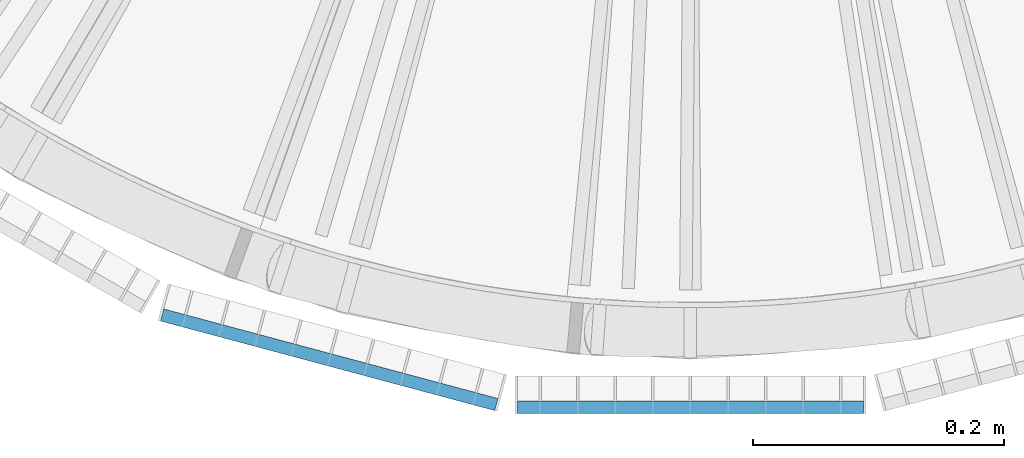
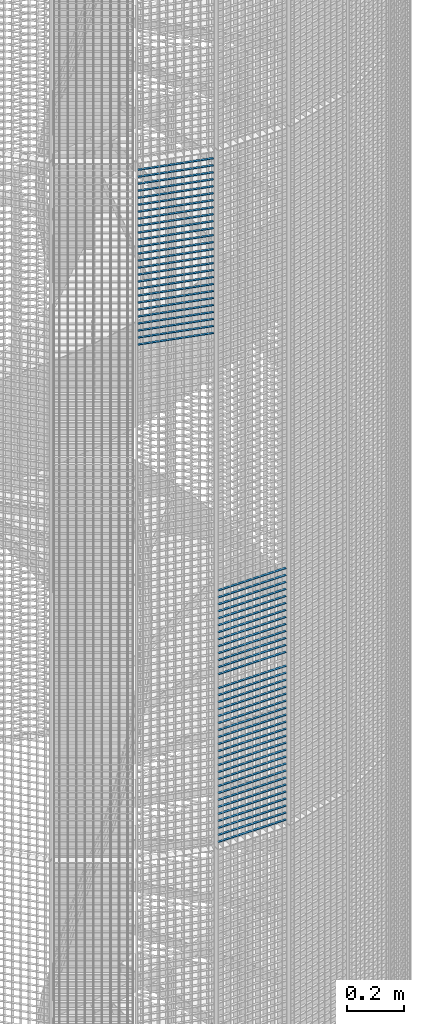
# One storey, part 164 of 1183: 62 beams, 2 elements without a shape of their own.
"""IFC2X3 building model written with IfcOpenShell, lengths in millimetres."""

from ifc_helpers import new_model, si_unit, frame, origin_with_axes, origin_2d_with_axis, place, context, subcontext, project, spatial, rectangle, extrude, material, type_object, element, aggregate, save


model = new_model("IFC2X3")

# Units and contexts
model_context = context("Model", 3, precision=1e-05, world=origin_with_axes())
body_context = subcontext(model_context, "Body", "Model", "MODEL_VIEW")
ifc_project = project(units=[si_unit("LENGTHUNIT", "METRE", prefix="MILLI"), si_unit("AREAUNIT", "SQUARE_METRE"), si_unit("VOLUMEUNIT", "CUBIC_METRE"), si_unit("MASSUNIT", "GRAM", prefix="KILO"), si_unit("TIMEUNIT", "SECOND"), si_unit("PLANEANGLEUNIT", "RADIAN"), si_unit("SOLIDANGLEUNIT", "STERADIAN"), si_unit("THERMODYNAMICTEMPERATUREUNIT", "DEGREE_CELSIUS"), si_unit("LUMINOUSINTENSITYUNIT", "LUMEN")], contexts=[model_context])

# Site, building, storey
site_placement = place(None, origin_with_axes())
site = spatial("IfcSite", under=ifc_project, at=site_placement, Name="Undefined", CompositionType="ELEMENT")
building_placement = place(site_placement, origin_with_axes())
building = spatial("IfcBuilding", under=site, at=building_placement, Name="Undefined", CompositionType="ELEMENT")
storey_placement = place(building_placement, origin_with_axes())
storey = spatial("IfcBuildingStorey", under=building, at=storey_placement, Name="Undefined", CompositionType="ELEMENT", Elevation=0.0)

# Assembly, beams
assembly_1_placement = place(storey_placement, origin_with_axes())
assembly_1 = element("IfcElementAssembly", 1, at=assembly_1_placement, inside=storey, Name="BORDURE", AssemblyPlace="NOTDEFINED", PredefinedType="NOTDEFINED")
ifc_material = material(Name="STEEL/S235JR")
beam_type = type_object("IfcBeamType", Name="PL2*10", PredefinedType="NOTDEFINED")
beam_1_placement = place(assembly_1_placement, frame((-137.996003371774, -1113.47999999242, 3690.0), z_axis=(0.0, -1.0, 0.0), x_axis=(1.0, 0.0, 0.0)))
beam_1 = element("IfcBeam", 2, at=beam_1_placement, type_object=beam_type, material=ifc_material, Name="ENTRETOISE", context=body_context, shape_type="SweptSolid", body=[
    extrude(rectangle(XDim=2.0, YDim=10.0, at=origin_2d_with_axis()), frame((275.999999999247, 9.09494701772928e-13, 1.53210777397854e-14), z_axis=(-1.0, 0.0, 0.0), x_axis=(0.0, -1.0, 0.0)), (0.0, 0.0, 1.0), 276.0),
])
beam_2_placement = place(assembly_1_placement, frame((-137.996003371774, -1113.47999999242, 3750.0), z_axis=(0.0, -1.0, 0.0), x_axis=(1.0, 0.0, 0.0)))
beam_2 = element("IfcBeam", 3, at=beam_2_placement, type_object=beam_type, material=ifc_material, Name="ENTRETOISE", context=body_context, shape_type="SweptSolid", body=[
    extrude(rectangle(XDim=2.0, YDim=10.0, at=origin_2d_with_axis()), frame((275.999999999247, 9.09494701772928e-13, 1.53210777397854e-14), z_axis=(-1.0, 0.0, 0.0), x_axis=(0.0, -1.0, 0.0)), (0.0, 0.0, 1.0), 276.0),
])
beam_3_placement = place(assembly_1_placement, frame((-137.996003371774, -1113.47999999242, 3660.0), z_axis=(0.0, -1.0, 0.0), x_axis=(1.0, 0.0, 0.0)))
beam_3 = element("IfcBeam", 4, at=beam_3_placement, type_object=beam_type, material=ifc_material, Name="ENTRETOISE", context=body_context, shape_type="SweptSolid", body=[
    extrude(rectangle(XDim=2.0, YDim=10.0, at=origin_2d_with_axis()), frame((275.999999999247, 9.09494701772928e-13, 1.53210777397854e-14), z_axis=(-1.0, 0.0, 0.0), x_axis=(0.0, -1.0, 0.0)), (0.0, 0.0, 1.0), 276.0),
])
beam_4_placement = place(assembly_1_placement, frame((-137.996003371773, -1113.47999999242, 3630.0), z_axis=(0.0, -1.0, 0.0), x_axis=(1.0, 0.0, 0.0)))
beam_4 = element("IfcBeam", 5, at=beam_4_placement, type_object=beam_type, material=ifc_material, Name="ENTRETOISE", context=body_context, shape_type="SweptSolid", body=[
    extrude(rectangle(XDim=2.0, YDim=10.0, at=origin_2d_with_axis()), frame((275.999999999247, 9.09494701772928e-13, 1.53210777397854e-14), z_axis=(-1.0, 0.0, 0.0), x_axis=(0.0, -1.0, 0.0)), (0.0, 0.0, 1.0), 276.0),
])
beam_5_placement = place(assembly_1_placement, frame((-137.996003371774, -1113.47999999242, 3780.0), z_axis=(0.0, -1.0, 0.0), x_axis=(1.0, 0.0, 0.0)))
beam_5 = element("IfcBeam", 6, at=beam_5_placement, type_object=beam_type, material=ifc_material, Name="ENTRETOISE", context=body_context, shape_type="SweptSolid", body=[
    extrude(rectangle(XDim=2.0, YDim=10.0, at=origin_2d_with_axis()), frame((275.999999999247, 9.09494701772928e-13, 1.53210777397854e-14), z_axis=(-1.0, 0.0, 0.0), x_axis=(0.0, -1.0, 0.0)), (0.0, 0.0, 1.0), 276.0),
])
beam_6_placement = place(assembly_1_placement, frame((-137.996003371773, -1113.47999999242, 3600.0), z_axis=(0.0, -1.0, 0.0), x_axis=(1.0, 0.0, 0.0)))
beam_6 = element("IfcBeam", 7, at=beam_6_placement, type_object=beam_type, material=ifc_material, Name="ENTRETOISE", context=body_context, shape_type="SweptSolid", body=[
    extrude(rectangle(XDim=2.0, YDim=10.0, at=origin_2d_with_axis()), frame((275.999999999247, 9.09494701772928e-13, 1.53210777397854e-14), z_axis=(-1.0, 0.0, 0.0), x_axis=(0.0, -1.0, 0.0)), (0.0, 0.0, 1.0), 276.0),
])
beam_7_placement = place(assembly_1_placement, frame((-137.996003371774, -1113.47999999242, 3810.0), z_axis=(0.0, -1.0, 0.0), x_axis=(1.0, 0.0, 0.0)))
beam_7 = element("IfcBeam", 8, at=beam_7_placement, type_object=beam_type, material=ifc_material, Name="ENTRETOISE", context=body_context, shape_type="SweptSolid", body=[
    extrude(rectangle(XDim=2.0, YDim=10.0, at=origin_2d_with_axis()), frame((275.999999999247, 9.09494701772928e-13, 1.53210777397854e-14), z_axis=(-1.0, 0.0, 0.0), x_axis=(0.0, -1.0, 0.0)), (0.0, 0.0, 1.0), 276.0),
])
beam_8_placement = place(assembly_1_placement, frame((-137.996003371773, -1113.47999999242, 3570.0), z_axis=(0.0, -1.0, 0.0), x_axis=(1.0, 0.0, 0.0)))
beam_8 = element("IfcBeam", 9, at=beam_8_placement, type_object=beam_type, material=ifc_material, Name="ENTRETOISE", context=body_context, shape_type="SweptSolid", body=[
    extrude(rectangle(XDim=2.0, YDim=10.0, at=origin_2d_with_axis()), frame((275.999999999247, 9.09494701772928e-13, 1.53210777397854e-14), z_axis=(-1.0, 0.0, 0.0), x_axis=(0.0, -1.0, 0.0)), (0.0, 0.0, 1.0), 276.0),
])
beam_9_placement = place(assembly_1_placement, frame((-137.996003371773, -1113.47999999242, 3540.0), z_axis=(0.0, -1.0, 0.0), x_axis=(1.0, 0.0, 0.0)))
beam_9 = element("IfcBeam", 10, at=beam_9_placement, type_object=beam_type, material=ifc_material, Name="ENTRETOISE", context=body_context, shape_type="SweptSolid", body=[
    extrude(rectangle(XDim=2.0, YDim=10.0, at=origin_2d_with_axis()), frame((275.999999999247, 9.09494701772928e-13, 1.53210777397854e-14), z_axis=(-1.0, 0.0, 0.0), x_axis=(0.0, -1.0, 0.0)), (0.0, 0.0, 1.0), 276.0),
])
beam_10_placement = place(assembly_1_placement, frame((-137.996003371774, -1113.47999999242, 3840.0), z_axis=(0.0, -1.0, 0.0), x_axis=(1.0, 0.0, 0.0)))
beam_10 = element("IfcBeam", 11, at=beam_10_placement, type_object=beam_type, material=ifc_material, Name="ENTRETOISE", context=body_context, shape_type="SweptSolid", body=[
    extrude(rectangle(XDim=2.0, YDim=10.0, at=origin_2d_with_axis()), frame((275.999999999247, 9.09494701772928e-13, 1.53210777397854e-14), z_axis=(-1.0, 0.0, 0.0), x_axis=(0.0, -1.0, 0.0)), (0.0, 0.0, 1.0), 276.0),
])
beam_11_placement = place(assembly_1_placement, frame((-137.996003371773, -1113.47999999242, 3510.0), z_axis=(0.0, -1.0, 0.0), x_axis=(1.0, 0.0, 0.0)))
beam_11 = element("IfcBeam", 12, at=beam_11_placement, type_object=beam_type, material=ifc_material, Name="ENTRETOISE", context=body_context, shape_type="SweptSolid", body=[
    extrude(rectangle(XDim=2.0, YDim=10.0, at=origin_2d_with_axis()), frame((275.999999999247, 9.09494701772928e-13, 1.53210777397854e-14), z_axis=(-1.0, 0.0, 0.0), x_axis=(0.0, -1.0, 0.0)), (0.0, 0.0, 1.0), 276.0),
])
beam_12_placement = place(assembly_1_placement, frame((-137.996003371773, -1113.47999999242, 3480.0), z_axis=(0.0, -1.0, 0.0), x_axis=(1.0, 0.0, 0.0)))
beam_12 = element("IfcBeam", 13, at=beam_12_placement, type_object=beam_type, material=ifc_material, Name="ENTRETOISE", context=body_context, shape_type="SweptSolid", body=[
    extrude(rectangle(XDim=2.0, YDim=10.0, at=origin_2d_with_axis()), frame((275.999999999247, 9.09494701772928e-13, 1.53210777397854e-14), z_axis=(-1.0, 0.0, 0.0), x_axis=(0.0, -1.0, 0.0)), (0.0, 0.0, 1.0), 276.0),
])
beam_13_placement = place(assembly_1_placement, frame((-137.996003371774, -1113.47999999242, 3870.0), z_axis=(0.0, -1.0, 0.0), x_axis=(1.0, 0.0, 0.0)))
beam_13 = element("IfcBeam", 14, at=beam_13_placement, type_object=beam_type, material=ifc_material, Name="ENTRETOISE", context=body_context, shape_type="SweptSolid", body=[
    extrude(rectangle(XDim=2.0, YDim=10.0, at=origin_2d_with_axis()), frame((275.999999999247, 9.09494701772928e-13, 1.53210777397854e-14), z_axis=(-1.0, 0.0, 0.0), x_axis=(0.0, -1.0, 0.0)), (0.0, 0.0, 1.0), 276.0),
])
beam_14_placement = place(assembly_1_placement, frame((-137.996003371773, -1113.47999999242, 3450.0), z_axis=(0.0, -1.0, 0.0), x_axis=(1.0, 0.0, 0.0)))
beam_14 = element("IfcBeam", 15, at=beam_14_placement, type_object=beam_type, material=ifc_material, Name="ENTRETOISE", context=body_context, shape_type="SweptSolid", body=[
    extrude(rectangle(XDim=2.0, YDim=10.0, at=origin_2d_with_axis()), frame((275.999999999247, 9.09494701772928e-13, 1.53210777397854e-14), z_axis=(-1.0, 0.0, 0.0), x_axis=(0.0, -1.0, 0.0)), (0.0, 0.0, 1.0), 276.0),
])
beam_15_placement = place(assembly_1_placement, frame((-137.996003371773, -1113.47999999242, 3420.0), z_axis=(0.0, -1.0, 0.0), x_axis=(1.0, 0.0, 0.0)))
beam_15 = element("IfcBeam", 16, at=beam_15_placement, type_object=beam_type, material=ifc_material, Name="ENTRETOISE", context=body_context, shape_type="SweptSolid", body=[
    extrude(rectangle(XDim=2.0, YDim=10.0, at=origin_2d_with_axis()), frame((275.999999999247, 9.09494701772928e-13, 1.53210777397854e-14), z_axis=(-1.0, 0.0, 0.0), x_axis=(0.0, -1.0, 0.0)), (0.0, 0.0, 1.0), 276.0),
])
beam_16_placement = place(assembly_1_placement, frame((-137.996003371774, -1113.47999999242, 3900.0), z_axis=(0.0, -1.0, 0.0), x_axis=(1.0, 0.0, 0.0)))
beam_16 = element("IfcBeam", 17, at=beam_16_placement, type_object=beam_type, material=ifc_material, Name="ENTRETOISE", context=body_context, shape_type="SweptSolid", body=[
    extrude(rectangle(XDim=2.0, YDim=10.0, at=origin_2d_with_axis()), frame((275.999999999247, 9.09494701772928e-13, 1.53210777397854e-14), z_axis=(-1.0, 0.0, 0.0), x_axis=(0.0, -1.0, 0.0)), (0.0, 0.0, 1.0), 276.0),
])
beam_17_placement = place(assembly_1_placement, frame((-137.996003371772, -1113.47999999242, 3390.0), z_axis=(0.0, -1.0, 0.0), x_axis=(1.0, 0.0, 0.0)))
beam_17 = element("IfcBeam", 18, at=beam_17_placement, type_object=beam_type, material=ifc_material, Name="ENTRETOISE", context=body_context, shape_type="SweptSolid", body=[
    extrude(rectangle(XDim=2.0, YDim=10.0, at=origin_2d_with_axis()), frame((275.999999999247, 9.09494701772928e-13, 1.53210777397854e-14), z_axis=(-1.0, 0.0, 0.0), x_axis=(0.0, -1.0, 0.0)), (0.0, 0.0, 1.0), 276.0),
])
beam_18_placement = place(assembly_1_placement, frame((-137.996003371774, -1113.47999999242, 3930.0), z_axis=(0.0, -1.0, 0.0), x_axis=(1.0, 0.0, 0.0)))
beam_18 = element("IfcBeam", 19, at=beam_18_placement, type_object=beam_type, material=ifc_material, Name="ENTRETOISE", context=body_context, shape_type="SweptSolid", body=[
    extrude(rectangle(XDim=2.0, YDim=10.0, at=origin_2d_with_axis()), frame((275.999999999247, 9.09494701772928e-13, 1.53210777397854e-14), z_axis=(-1.0, 0.0, 0.0), x_axis=(0.0, -1.0, 0.0)), (0.0, 0.0, 1.0), 276.0),
])
beam_19_placement = place(assembly_1_placement, frame((-137.996003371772, -1113.47999999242, 3360.0), z_axis=(0.0, -1.0, 0.0), x_axis=(1.0, 0.0, 0.0)))
beam_19 = element("IfcBeam", 20, at=beam_19_placement, type_object=beam_type, material=ifc_material, Name="ENTRETOISE", context=body_context, shape_type="SweptSolid", body=[
    extrude(rectangle(XDim=2.0, YDim=10.0, at=origin_2d_with_axis()), frame((275.999999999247, 9.09494701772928e-13, 1.53210777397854e-14), z_axis=(-1.0, 0.0, 0.0), x_axis=(0.0, -1.0, 0.0)), (0.0, 0.0, 1.0), 276.0),
])
beam_20_placement = place(assembly_1_placement, frame((-137.996003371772, -1113.47999999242, 3330.0), z_axis=(0.0, -1.0, 0.0), x_axis=(1.0, 0.0, 0.0)))
beam_20 = element("IfcBeam", 21, at=beam_20_placement, type_object=beam_type, material=ifc_material, Name="ENTRETOISE", context=body_context, shape_type="SweptSolid", body=[
    extrude(rectangle(XDim=2.0, YDim=10.0, at=origin_2d_with_axis()), frame((275.999999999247, 9.09494701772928e-13, 1.53210777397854e-14), z_axis=(-1.0, 0.0, 0.0), x_axis=(0.0, -1.0, 0.0)), (0.0, 0.0, 1.0), 276.0),
])
beam_21_placement = place(assembly_1_placement, frame((-137.996003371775, -1113.47999999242, 3960.0), z_axis=(0.0, -1.0, 0.0), x_axis=(1.0, 0.0, 0.0)))
beam_21 = element("IfcBeam", 22, at=beam_21_placement, type_object=beam_type, material=ifc_material, Name="ENTRETOISE", context=body_context, shape_type="SweptSolid", body=[
    extrude(rectangle(XDim=2.0, YDim=10.0, at=origin_2d_with_axis()), frame((275.999999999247, 9.09494701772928e-13, 1.53210777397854e-14), z_axis=(-1.0, 0.0, 0.0), x_axis=(0.0, -1.0, 0.0)), (0.0, 0.0, 1.0), 276.0),
])
beam_22_placement = place(assembly_1_placement, frame((-137.996003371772, -1113.47999999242, 3300.0), z_axis=(0.0, -1.0, 0.0), x_axis=(1.0, 0.0, 0.0)))
beam_22 = element("IfcBeam", 23, at=beam_22_placement, type_object=beam_type, material=ifc_material, Name="ENTRETOISE", context=body_context, shape_type="SweptSolid", body=[
    extrude(rectangle(XDim=2.0, YDim=10.0, at=origin_2d_with_axis()), frame((275.999999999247, 9.09494701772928e-13, 1.53210777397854e-14), z_axis=(-1.0, 0.0, 0.0), x_axis=(0.0, -1.0, 0.0)), (0.0, 0.0, 1.0), 276.0),
])
beam_23_placement = place(assembly_1_placement, frame((-137.996003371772, -1113.47999999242, 3270.0), z_axis=(0.0, -1.0, 0.0), x_axis=(1.0, 0.0, 0.0)))
beam_23 = element("IfcBeam", 24, at=beam_23_placement, type_object=beam_type, material=ifc_material, Name="ENTRETOISE", context=body_context, shape_type="SweptSolid", body=[
    extrude(rectangle(XDim=2.0, YDim=10.0, at=origin_2d_with_axis()), frame((275.999999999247, 9.09494701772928e-13, 1.53210777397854e-14), z_axis=(-1.0, 0.0, 0.0), x_axis=(0.0, -1.0, 0.0)), (0.0, 0.0, 1.0), 276.0),
])
beam_24_placement = place(assembly_1_placement, frame((-137.996003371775, -1113.47999999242, 3990.0), z_axis=(0.0, -1.0, 0.0), x_axis=(1.0, 0.0, 0.0)))
beam_24 = element("IfcBeam", 25, at=beam_24_placement, type_object=beam_type, material=ifc_material, Name="ENTRETOISE", context=body_context, shape_type="SweptSolid", body=[
    extrude(rectangle(XDim=2.0, YDim=10.0, at=origin_2d_with_axis()), frame((275.999999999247, 9.09494701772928e-13, 1.53210777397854e-14), z_axis=(-1.0, 0.0, 0.0), x_axis=(0.0, -1.0, 0.0)), (0.0, 0.0, 1.0), 276.0),
])
beam_25_placement = place(assembly_1_placement, frame((-137.996003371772, -1113.47999999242, 3240.0), z_axis=(0.0, -1.0, 0.0), x_axis=(1.0, 0.0, 0.0)))
beam_25 = element("IfcBeam", 26, at=beam_25_placement, type_object=beam_type, material=ifc_material, Name="ENTRETOISE", context=body_context, shape_type="SweptSolid", body=[
    extrude(rectangle(XDim=2.0, YDim=10.0, at=origin_2d_with_axis()), frame((275.999999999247, 9.09494701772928e-13, 1.53210777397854e-14), z_axis=(-1.0, 0.0, 0.0), x_axis=(0.0, -1.0, 0.0)), (0.0, 0.0, 1.0), 276.0),
])
beam_26_placement = place(assembly_1_placement, frame((-137.996003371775, -1113.47999999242, 4020.0), z_axis=(0.0, -1.0, 0.0), x_axis=(1.0, 0.0, 0.0)))
beam_26 = element("IfcBeam", 27, at=beam_26_placement, type_object=beam_type, material=ifc_material, Name="ENTRETOISE", context=body_context, shape_type="SweptSolid", body=[
    extrude(rectangle(XDim=2.0, YDim=10.0, at=origin_2d_with_axis()), frame((275.999999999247, 9.09494701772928e-13, 1.53210777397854e-14), z_axis=(-1.0, 0.0, 0.0), x_axis=(0.0, -1.0, 0.0)), (0.0, 0.0, 1.0), 276.0),
])
beam_27_placement = place(assembly_1_placement, frame((-137.996003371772, -1113.47999999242, 3210.0), z_axis=(0.0, -1.0, 0.0), x_axis=(1.0, 0.0, 0.0)))
beam_27 = element("IfcBeam", 28, at=beam_27_placement, type_object=beam_type, material=ifc_material, Name="ENTRETOISE", context=body_context, shape_type="SweptSolid", body=[
    extrude(rectangle(XDim=2.0, YDim=10.0, at=origin_2d_with_axis()), frame((275.999999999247, 9.09494701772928e-13, 1.53210777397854e-14), z_axis=(-1.0, 0.0, 0.0), x_axis=(0.0, -1.0, 0.0)), (0.0, 0.0, 1.0), 276.0),
])
beam_28_placement = place(assembly_1_placement, frame((-137.996003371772, -1113.47999999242, 3180.0), z_axis=(0.0, -1.0, 0.0), x_axis=(1.0, 0.0, 0.0)))
beam_28 = element("IfcBeam", 29, at=beam_28_placement, type_object=beam_type, material=ifc_material, Name="ENTRETOISE", context=body_context, shape_type="SweptSolid", body=[
    extrude(rectangle(XDim=2.0, YDim=10.0, at=origin_2d_with_axis()), frame((275.999999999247, 9.09494701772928e-13, 1.53210777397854e-14), z_axis=(-1.0, 0.0, 0.0), x_axis=(0.0, -1.0, 0.0)), (0.0, 0.0, 1.0), 276.0),
])
beam_29_placement = place(assembly_1_placement, frame((-137.996003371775, -1113.47999999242, 4050.0), z_axis=(0.0, -1.0, 0.0), x_axis=(1.0, 0.0, 0.0)))
beam_29 = element("IfcBeam", 30, at=beam_29_placement, type_object=beam_type, material=ifc_material, Name="ENTRETOISE", context=body_context, shape_type="SweptSolid", body=[
    extrude(rectangle(XDim=2.0, YDim=10.0, at=origin_2d_with_axis()), frame((275.999999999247, 9.09494701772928e-13, 1.53210777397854e-14), z_axis=(-1.0, 0.0, 0.0), x_axis=(0.0, -1.0, 0.0)), (0.0, 0.0, 1.0), 276.0),
])
beam_30_placement = place(assembly_1_placement, frame((-137.996003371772, -1113.47999999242, 3150.0), z_axis=(0.0, -1.0, 0.0), x_axis=(1.0, 0.0, 0.0)))
beam_30 = element("IfcBeam", 31, at=beam_30_placement, type_object=beam_type, material=ifc_material, Name="ENTRETOISE", context=body_context, shape_type="SweptSolid", body=[
    extrude(rectangle(XDim=2.0, YDim=10.0, at=origin_2d_with_axis()), frame((275.999999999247, 9.09494701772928e-13, 1.53210777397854e-14), z_axis=(-1.0, 0.0, 0.0), x_axis=(0.0, -1.0, 0.0)), (0.0, 0.0, 1.0), 276.0),
])
beam_31_placement = place(assembly_1_placement, frame((-137.996003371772, -1113.47999999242, 3120.0), z_axis=(0.0, -1.0, 0.0), x_axis=(1.0, 0.0, 0.0)))
beam_31 = element("IfcBeam", 32, at=beam_31_placement, type_object=beam_type, material=ifc_material, Name="ENTRETOISE", context=body_context, shape_type="SweptSolid", body=[
    extrude(rectangle(XDim=2.0, YDim=10.0, at=origin_2d_with_axis()), frame((275.999999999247, 9.09494701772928e-13, 1.53210777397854e-14), z_axis=(-1.0, 0.0, 0.0), x_axis=(0.0, -1.0, 0.0)), (0.0, 0.0, 1.0), 276.0),
])
beam_32_placement = place(assembly_1_placement, frame((-137.996003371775, -1113.47999999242, 4080.0), z_axis=(0.0, -1.0, 0.0), x_axis=(1.0, 0.0, 0.0)))
beam_32 = element("IfcBeam", 33, at=beam_32_placement, type_object=beam_type, material=ifc_material, Name="ENTRETOISE", context=body_context, shape_type="SweptSolid", body=[
    extrude(rectangle(XDim=2.0, YDim=10.0, at=origin_2d_with_axis()), frame((275.999999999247, 9.09494701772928e-13, 1.53210777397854e-14), z_axis=(-1.0, 0.0, 0.0), x_axis=(0.0, -1.0, 0.0)), (0.0, 0.0, 1.0), 276.0),
])
beam_33_placement = place(assembly_1_placement, frame((-137.996003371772, -1113.47999999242, 3090.0), z_axis=(0.0, -1.0, 0.0), x_axis=(1.0, 0.0, 0.0)))
beam_33 = element("IfcBeam", 34, at=beam_33_placement, type_object=beam_type, material=ifc_material, Name="ENTRETOISE", context=body_context, shape_type="SweptSolid", body=[
    extrude(rectangle(XDim=2.0, YDim=10.0, at=origin_2d_with_axis()), frame((275.999999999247, 9.09494701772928e-13, 1.53210777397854e-14), z_axis=(-1.0, 0.0, 0.0), x_axis=(0.0, -1.0, 0.0)), (0.0, 0.0, 1.0), 276.0),
])
beam_34_placement = place(assembly_1_placement, frame((-137.996003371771, -1113.47999999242, 3060.0), z_axis=(0.0, -1.0, 0.0), x_axis=(1.0, 0.0, 0.0)))
beam_34 = element("IfcBeam", 35, at=beam_34_placement, type_object=beam_type, material=ifc_material, Name="ENTRETOISE", context=body_context, shape_type="SweptSolid", body=[
    extrude(rectangle(XDim=2.0, YDim=10.0, at=origin_2d_with_axis()), frame((275.999999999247, 9.09494701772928e-13, 1.53210777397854e-14), z_axis=(-1.0, 0.0, 0.0), x_axis=(0.0, -1.0, 0.0)), (0.0, 0.0, 1.0), 276.0),
])
beam_35_placement = place(assembly_1_placement, frame((-137.996003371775, -1113.47999999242, 4110.0), z_axis=(0.0, -1.0, 0.0), x_axis=(1.0, 0.0, 0.0)))
beam_35 = element("IfcBeam", 36, at=beam_35_placement, type_object=beam_type, material=ifc_material, Name="ENTRETOISE", context=body_context, shape_type="SweptSolid", body=[
    extrude(rectangle(XDim=2.0, YDim=10.0, at=origin_2d_with_axis()), frame((275.999999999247, 9.09494701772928e-13, 1.53210777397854e-14), z_axis=(-1.0, 0.0, 0.0), x_axis=(0.0, -1.0, 0.0)), (0.0, 0.0, 1.0), 276.0),
])
beam_36_placement = place(assembly_1_placement, frame((-137.99600337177, -1113.47999999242, 3030.0), z_axis=(0.0, -1.0, 0.0), x_axis=(1.0, 0.0, 0.0)))
beam_36 = element("IfcBeam", 37, at=beam_36_placement, type_object=beam_type, material=ifc_material, Name="ENTRETOISE", context=body_context, shape_type="SweptSolid", body=[
    extrude(rectangle(XDim=2.0, YDim=10.0, at=origin_2d_with_axis()), frame((275.999999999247, 9.09494701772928e-13, 1.53210777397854e-14), z_axis=(-1.0, 0.0, 0.0), x_axis=(0.0, -1.0, 0.0)), (0.0, 0.0, 1.0), 276.0),
])
aggregate(assembly_1, [beam_1, beam_2, beam_3, beam_4, beam_5, beam_6, beam_7, beam_8, beam_9, beam_10, beam_11, beam_12, beam_13, beam_14, beam_15, beam_16, beam_17, beam_18, beam_19, beam_20, beam_21, beam_22, beam_23, beam_24, beam_25, beam_26, beam_27, beam_28, beam_29, beam_30, beam_31, beam_32, beam_33, beam_34, beam_35, beam_36])

assembly_2_placement = place(storey_placement, origin_with_axes())
assembly_2 = element("IfcElementAssembly", 38, at=assembly_2_placement, inside=storey, Name="BORDURE", AssemblyPlace="NOTDEFINED", PredefinedType="NOTDEFINED")
beam_37_placement = place(assembly_2_placement, frame((-421.483733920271, -1039.82309522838, 5970.0), z_axis=(-0.258819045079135, -0.965925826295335, 0.0), x_axis=(0.965925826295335, -0.258819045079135, 0.0)))
beam_37 = element("IfcBeam", 39, at=beam_37_placement, type_object=beam_type, material=ifc_material, Name="ENTRETOISE", context=body_context, shape_type="SweptSolid", body=[
    extrude(rectangle(XDim=2.0, YDim=10.0, at=origin_2d_with_axis()), frame((275.999999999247, 9.09494701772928e-13, 1.53210777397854e-14), z_axis=(-1.0, 0.0, 0.0), x_axis=(0.0, -1.0, 0.0)), (0.0, 0.0, 1.0), 276.0),
])
beam_38_placement = place(assembly_2_placement, frame((-421.483733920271, -1039.82309522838, 5940.0), z_axis=(-0.258819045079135, -0.965925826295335, 0.0), x_axis=(0.965925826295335, -0.258819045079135, 0.0)))
beam_38 = element("IfcBeam", 40, at=beam_38_placement, type_object=beam_type, material=ifc_material, Name="ENTRETOISE", context=body_context, shape_type="SweptSolid", body=[
    extrude(rectangle(XDim=2.0, YDim=10.0, at=origin_2d_with_axis()), frame((275.999999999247, 9.09494701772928e-13, 1.53210777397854e-14), z_axis=(-1.0, 0.0, 0.0), x_axis=(0.0, -1.0, 0.0)), (0.0, 0.0, 1.0), 276.0),
])
beam_39_placement = place(assembly_2_placement, frame((-421.483733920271, -1039.82309522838, 5910.0), z_axis=(-0.258819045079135, -0.965925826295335, 0.0), x_axis=(0.965925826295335, -0.258819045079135, 0.0)))
beam_39 = element("IfcBeam", 41, at=beam_39_placement, type_object=beam_type, material=ifc_material, Name="ENTRETOISE", context=body_context, shape_type="SweptSolid", body=[
    extrude(rectangle(XDim=2.0, YDim=10.0, at=origin_2d_with_axis()), frame((275.999999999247, 9.09494701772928e-13, 1.53210777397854e-14), z_axis=(-1.0, 0.0, 0.0), x_axis=(0.0, -1.0, 0.0)), (0.0, 0.0, 1.0), 276.0),
])
beam_40_placement = place(assembly_2_placement, frame((-421.483733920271, -1039.82309522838, 5880.0), z_axis=(-0.258819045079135, -0.965925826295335, 0.0), x_axis=(0.965925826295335, -0.258819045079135, 0.0)))
beam_40 = element("IfcBeam", 42, at=beam_40_placement, type_object=beam_type, material=ifc_material, Name="ENTRETOISE", context=body_context, shape_type="SweptSolid", body=[
    extrude(rectangle(XDim=2.0, YDim=10.0, at=origin_2d_with_axis()), frame((275.999999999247, 9.09494701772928e-13, 1.53210777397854e-14), z_axis=(-1.0, 0.0, 0.0), x_axis=(0.0, -1.0, 0.0)), (0.0, 0.0, 1.0), 276.0),
])
beam_41_placement = place(assembly_2_placement, frame((-421.483733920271, -1039.82309522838, 5850.0), z_axis=(-0.258819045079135, -0.965925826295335, 0.0), x_axis=(0.965925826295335, -0.258819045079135, 0.0)))
beam_41 = element("IfcBeam", 43, at=beam_41_placement, type_object=beam_type, material=ifc_material, Name="ENTRETOISE", context=body_context, shape_type="SweptSolid", body=[
    extrude(rectangle(XDim=2.0, YDim=10.0, at=origin_2d_with_axis()), frame((275.999999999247, 9.09494701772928e-13, 1.53210777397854e-14), z_axis=(-1.0, 0.0, 0.0), x_axis=(0.0, -1.0, 0.0)), (0.0, 0.0, 1.0), 276.0),
])
beam_42_placement = place(assembly_2_placement, frame((-421.483733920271, -1039.82309522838, 5820.0), z_axis=(-0.258819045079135, -0.965925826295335, 0.0), x_axis=(0.965925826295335, -0.258819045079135, 0.0)))
beam_42 = element("IfcBeam", 44, at=beam_42_placement, type_object=beam_type, material=ifc_material, Name="ENTRETOISE", context=body_context, shape_type="SweptSolid", body=[
    extrude(rectangle(XDim=2.0, YDim=10.0, at=origin_2d_with_axis()), frame((275.999999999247, 9.09494701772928e-13, 1.53210777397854e-14), z_axis=(-1.0, 0.0, 0.0), x_axis=(0.0, -1.0, 0.0)), (0.0, 0.0, 1.0), 276.0),
])
beam_43_placement = place(assembly_2_placement, frame((-421.483733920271, -1039.82309522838, 5790.0), z_axis=(-0.258819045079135, -0.965925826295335, 0.0), x_axis=(0.965925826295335, -0.258819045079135, 0.0)))
beam_43 = element("IfcBeam", 45, at=beam_43_placement, type_object=beam_type, material=ifc_material, Name="ENTRETOISE", context=body_context, shape_type="SweptSolid", body=[
    extrude(rectangle(XDim=2.0, YDim=10.0, at=origin_2d_with_axis()), frame((275.999999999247, 9.09494701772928e-13, 1.53210777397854e-14), z_axis=(-1.0, 0.0, 0.0), x_axis=(0.0, -1.0, 0.0)), (0.0, 0.0, 1.0), 276.0),
])
beam_44_placement = place(assembly_2_placement, frame((-421.483733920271, -1039.82309522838, 5760.0), z_axis=(-0.258819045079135, -0.965925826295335, 0.0), x_axis=(0.965925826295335, -0.258819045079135, 0.0)))
beam_44 = element("IfcBeam", 46, at=beam_44_placement, type_object=beam_type, material=ifc_material, Name="ENTRETOISE", context=body_context, shape_type="SweptSolid", body=[
    extrude(rectangle(XDim=2.0, YDim=10.0, at=origin_2d_with_axis()), frame((275.999999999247, 9.09494701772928e-13, 1.53210777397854e-14), z_axis=(-1.0, 0.0, 0.0), x_axis=(0.0, -1.0, 0.0)), (0.0, 0.0, 1.0), 276.0),
])
beam_45_placement = place(assembly_2_placement, frame((-421.483733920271, -1039.82309522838, 5730.0), z_axis=(-0.258819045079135, -0.965925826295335, 0.0), x_axis=(0.965925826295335, -0.258819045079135, 0.0)))
beam_45 = element("IfcBeam", 47, at=beam_45_placement, type_object=beam_type, material=ifc_material, Name="ENTRETOISE", context=body_context, shape_type="SweptSolid", body=[
    extrude(rectangle(XDim=2.0, YDim=10.0, at=origin_2d_with_axis()), frame((275.999999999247, 9.09494701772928e-13, 1.53210777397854e-14), z_axis=(-1.0, 0.0, 0.0), x_axis=(0.0, -1.0, 0.0)), (0.0, 0.0, 1.0), 276.0),
])
beam_46_placement = place(assembly_2_placement, frame((-421.48373392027, -1039.82309522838, 5700.0), z_axis=(-0.258819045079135, -0.965925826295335, 0.0), x_axis=(0.965925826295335, -0.258819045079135, 0.0)))
beam_46 = element("IfcBeam", 48, at=beam_46_placement, type_object=beam_type, material=ifc_material, Name="ENTRETOISE", context=body_context, shape_type="SweptSolid", body=[
    extrude(rectangle(XDim=2.0, YDim=10.0, at=origin_2d_with_axis()), frame((275.999999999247, 9.09494701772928e-13, 1.53210777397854e-14), z_axis=(-1.0, 0.0, 0.0), x_axis=(0.0, -1.0, 0.0)), (0.0, 0.0, 1.0), 276.0),
])
beam_47_placement = place(assembly_2_placement, frame((-421.48373392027, -1039.82309522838, 5670.0), z_axis=(-0.258819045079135, -0.965925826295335, 0.0), x_axis=(0.965925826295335, -0.258819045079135, 0.0)))
beam_47 = element("IfcBeam", 49, at=beam_47_placement, type_object=beam_type, material=ifc_material, Name="ENTRETOISE", context=body_context, shape_type="SweptSolid", body=[
    extrude(rectangle(XDim=2.0, YDim=10.0, at=origin_2d_with_axis()), frame((275.999999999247, 9.09494701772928e-13, 1.53210777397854e-14), z_axis=(-1.0, 0.0, 0.0), x_axis=(0.0, -1.0, 0.0)), (0.0, 0.0, 1.0), 276.0),
])
beam_48_placement = place(assembly_2_placement, frame((-421.48373392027, -1039.82309522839, 5640.0), z_axis=(-0.258819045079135, -0.965925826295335, 0.0), x_axis=(0.965925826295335, -0.258819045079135, 0.0)))
beam_48 = element("IfcBeam", 50, at=beam_48_placement, type_object=beam_type, material=ifc_material, Name="ENTRETOISE", context=body_context, shape_type="SweptSolid", body=[
    extrude(rectangle(XDim=2.0, YDim=10.0, at=origin_2d_with_axis()), frame((275.999999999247, 9.09494701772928e-13, 1.53210777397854e-14), z_axis=(-1.0, 0.0, 0.0), x_axis=(0.0, -1.0, 0.0)), (0.0, 0.0, 1.0), 276.0),
])
beam_49_placement = place(assembly_2_placement, frame((-421.48373392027, -1039.82309522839, 5610.0), z_axis=(-0.258819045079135, -0.965925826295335, 0.0), x_axis=(0.965925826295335, -0.258819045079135, 0.0)))
beam_49 = element("IfcBeam", 51, at=beam_49_placement, type_object=beam_type, material=ifc_material, Name="ENTRETOISE", context=body_context, shape_type="SweptSolid", body=[
    extrude(rectangle(XDim=2.0, YDim=10.0, at=origin_2d_with_axis()), frame((275.999999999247, 9.09494701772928e-13, 1.53210777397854e-14), z_axis=(-1.0, 0.0, 0.0), x_axis=(0.0, -1.0, 0.0)), (0.0, 0.0, 1.0), 276.0),
])
beam_50_placement = place(assembly_2_placement, frame((-421.48373392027, -1039.82309522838, 5580.0), z_axis=(-0.258819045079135, -0.965925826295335, 0.0), x_axis=(0.965925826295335, -0.258819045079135, 0.0)))
beam_50 = element("IfcBeam", 52, at=beam_50_placement, type_object=beam_type, material=ifc_material, Name="ENTRETOISE", context=body_context, shape_type="SweptSolid", body=[
    extrude(rectangle(XDim=2.0, YDim=10.0, at=origin_2d_with_axis()), frame((275.999999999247, 9.09494701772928e-13, 1.53210777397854e-14), z_axis=(-1.0, 0.0, 0.0), x_axis=(0.0, -1.0, 0.0)), (0.0, 0.0, 1.0), 276.0),
])
beam_51_placement = place(assembly_2_placement, frame((-421.48373392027, -1039.82309522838, 5550.0), z_axis=(-0.258819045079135, -0.965925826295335, 0.0), x_axis=(0.965925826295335, -0.258819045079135, 0.0)))
beam_51 = element("IfcBeam", 53, at=beam_51_placement, type_object=beam_type, material=ifc_material, Name="ENTRETOISE", context=body_context, shape_type="SweptSolid", body=[
    extrude(rectangle(XDim=2.0, YDim=10.0, at=origin_2d_with_axis()), frame((275.999999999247, 9.09494701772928e-13, 1.53210777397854e-14), z_axis=(-1.0, 0.0, 0.0), x_axis=(0.0, -1.0, 0.0)), (0.0, 0.0, 1.0), 276.0),
])
beam_52_placement = place(assembly_2_placement, frame((-421.48373392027, -1039.82309522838, 5520.0), z_axis=(-0.258819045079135, -0.965925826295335, 0.0), x_axis=(0.965925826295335, -0.258819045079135, 0.0)))
beam_52 = element("IfcBeam", 54, at=beam_52_placement, type_object=beam_type, material=ifc_material, Name="ENTRETOISE", context=body_context, shape_type="SweptSolid", body=[
    extrude(rectangle(XDim=2.0, YDim=10.0, at=origin_2d_with_axis()), frame((275.999999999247, 9.09494701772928e-13, 1.53210777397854e-14), z_axis=(-1.0, 0.0, 0.0), x_axis=(0.0, -1.0, 0.0)), (0.0, 0.0, 1.0), 276.0),
])
beam_53_placement = place(assembly_2_placement, frame((-421.48373392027, -1039.82309522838, 5490.0), z_axis=(-0.258819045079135, -0.965925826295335, 0.0), x_axis=(0.965925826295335, -0.258819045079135, 0.0)))
beam_53 = element("IfcBeam", 55, at=beam_53_placement, type_object=beam_type, material=ifc_material, Name="ENTRETOISE", context=body_context, shape_type="SweptSolid", body=[
    extrude(rectangle(XDim=2.0, YDim=10.0, at=origin_2d_with_axis()), frame((275.999999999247, 9.09494701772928e-13, 1.53210777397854e-14), z_axis=(-1.0, 0.0, 0.0), x_axis=(0.0, -1.0, 0.0)), (0.0, 0.0, 1.0), 276.0),
])
beam_54_placement = place(assembly_2_placement, frame((-421.48373392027, -1039.82309522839, 5460.0), z_axis=(-0.258819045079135, -0.965925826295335, 0.0), x_axis=(0.965925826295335, -0.258819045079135, 0.0)))
beam_54 = element("IfcBeam", 56, at=beam_54_placement, type_object=beam_type, material=ifc_material, Name="ENTRETOISE", context=body_context, shape_type="SweptSolid", body=[
    extrude(rectangle(XDim=2.0, YDim=10.0, at=origin_2d_with_axis()), frame((275.999999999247, 9.09494701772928e-13, 1.53210777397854e-14), z_axis=(-1.0, 0.0, 0.0), x_axis=(0.0, -1.0, 0.0)), (0.0, 0.0, 1.0), 276.0),
])
beam_55_placement = place(assembly_2_placement, frame((-421.48373392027, -1039.82309522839, 5430.0), z_axis=(-0.258819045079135, -0.965925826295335, 0.0), x_axis=(0.965925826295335, -0.258819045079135, 0.0)))
beam_55 = element("IfcBeam", 57, at=beam_55_placement, type_object=beam_type, material=ifc_material, Name="ENTRETOISE", context=body_context, shape_type="SweptSolid", body=[
    extrude(rectangle(XDim=2.0, YDim=10.0, at=origin_2d_with_axis()), frame((275.999999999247, 9.09494701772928e-13, 1.53210777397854e-14), z_axis=(-1.0, 0.0, 0.0), x_axis=(0.0, -1.0, 0.0)), (0.0, 0.0, 1.0), 276.0),
])
beam_56_placement = place(assembly_2_placement, frame((-421.483733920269, -1039.82309522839, 5400.0), z_axis=(-0.258819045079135, -0.965925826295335, 0.0), x_axis=(0.965925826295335, -0.258819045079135, 0.0)))
beam_56 = element("IfcBeam", 58, at=beam_56_placement, type_object=beam_type, material=ifc_material, Name="ENTRETOISE", context=body_context, shape_type="SweptSolid", body=[
    extrude(rectangle(XDim=2.0, YDim=10.0, at=origin_2d_with_axis()), frame((275.999999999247, 9.09494701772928e-13, 1.53210777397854e-14), z_axis=(-1.0, 0.0, 0.0), x_axis=(0.0, -1.0, 0.0)), (0.0, 0.0, 1.0), 276.0),
])
beam_57_placement = place(assembly_2_placement, frame((-421.483733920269, -1039.82309522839, 5370.0), z_axis=(-0.258819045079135, -0.965925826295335, 0.0), x_axis=(0.965925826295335, -0.258819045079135, 0.0)))
beam_57 = element("IfcBeam", 59, at=beam_57_placement, type_object=beam_type, material=ifc_material, Name="ENTRETOISE", context=body_context, shape_type="SweptSolid", body=[
    extrude(rectangle(XDim=2.0, YDim=10.0, at=origin_2d_with_axis()), frame((275.999999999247, 9.09494701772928e-13, 1.53210777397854e-14), z_axis=(-1.0, 0.0, 0.0), x_axis=(0.0, -1.0, 0.0)), (0.0, 0.0, 1.0), 276.0),
])
beam_58_placement = place(assembly_2_placement, frame((-421.483733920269, -1039.82309522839, 5340.0), z_axis=(-0.258819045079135, -0.965925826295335, 0.0), x_axis=(0.965925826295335, -0.258819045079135, 0.0)))
beam_58 = element("IfcBeam", 60, at=beam_58_placement, type_object=beam_type, material=ifc_material, Name="ENTRETOISE", context=body_context, shape_type="SweptSolid", body=[
    extrude(rectangle(XDim=2.0, YDim=10.0, at=origin_2d_with_axis()), frame((275.999999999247, 9.09494701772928e-13, 1.53210777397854e-14), z_axis=(-1.0, 0.0, 0.0), x_axis=(0.0, -1.0, 0.0)), (0.0, 0.0, 1.0), 276.0),
])
beam_59_placement = place(assembly_2_placement, frame((-421.483733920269, -1039.82309522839, 5310.0), z_axis=(-0.258819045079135, -0.965925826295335, 0.0), x_axis=(0.965925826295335, -0.258819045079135, 0.0)))
beam_59 = element("IfcBeam", 61, at=beam_59_placement, type_object=beam_type, material=ifc_material, Name="ENTRETOISE", context=body_context, shape_type="SweptSolid", body=[
    extrude(rectangle(XDim=2.0, YDim=10.0, at=origin_2d_with_axis()), frame((275.999999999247, 9.09494701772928e-13, 1.53210777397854e-14), z_axis=(-1.0, 0.0, 0.0), x_axis=(0.0, -1.0, 0.0)), (0.0, 0.0, 1.0), 276.0),
])
beam_60_placement = place(assembly_2_placement, frame((-421.483733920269, -1039.82309522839, 5280.0), z_axis=(-0.258819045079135, -0.965925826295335, 0.0), x_axis=(0.965925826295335, -0.258819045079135, 0.0)))
beam_60 = element("IfcBeam", 62, at=beam_60_placement, type_object=beam_type, material=ifc_material, Name="ENTRETOISE", context=body_context, shape_type="SweptSolid", body=[
    extrude(rectangle(XDim=2.0, YDim=10.0, at=origin_2d_with_axis()), frame((275.999999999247, 9.09494701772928e-13, 1.53210777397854e-14), z_axis=(-1.0, 0.0, 0.0), x_axis=(0.0, -1.0, 0.0)), (0.0, 0.0, 1.0), 276.0),
])
beam_61_placement = place(assembly_2_placement, frame((-421.483733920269, -1039.82309522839, 5250.0), z_axis=(-0.258819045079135, -0.965925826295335, 0.0), x_axis=(0.965925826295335, -0.258819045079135, 0.0)))
beam_61 = element("IfcBeam", 63, at=beam_61_placement, type_object=beam_type, material=ifc_material, Name="ENTRETOISE", context=body_context, shape_type="SweptSolid", body=[
    extrude(rectangle(XDim=2.0, YDim=10.0, at=origin_2d_with_axis()), frame((275.999999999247, 9.09494701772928e-13, 1.53210777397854e-14), z_axis=(-1.0, 0.0, 0.0), x_axis=(0.0, -1.0, 0.0)), (0.0, 0.0, 1.0), 276.0),
])
beam_62_placement = place(assembly_2_placement, frame((-421.483733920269, -1039.82309522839, 5220.0), z_axis=(-0.258819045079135, -0.965925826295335, 0.0), x_axis=(0.965925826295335, -0.258819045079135, 0.0)))
beam_62 = element("IfcBeam", 64, at=beam_62_placement, type_object=beam_type, material=ifc_material, Name="ENTRETOISE", context=body_context, shape_type="SweptSolid", body=[
    extrude(rectangle(XDim=2.0, YDim=10.0, at=origin_2d_with_axis()), frame((275.999999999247, 9.09494701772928e-13, 1.53210777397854e-14), z_axis=(-1.0, 0.0, 0.0), x_axis=(0.0, -1.0, 0.0)), (0.0, 0.0, 1.0), 276.0),
])
aggregate(assembly_2, [beam_37, beam_38, beam_39, beam_40, beam_41, beam_42, beam_43, beam_44, beam_45, beam_46, beam_47, beam_48, beam_49, beam_50, beam_51, beam_52, beam_53, beam_54, beam_55, beam_56, beam_57, beam_58, beam_59, beam_60, beam_61, beam_62])

save(model, "model.ifc")
